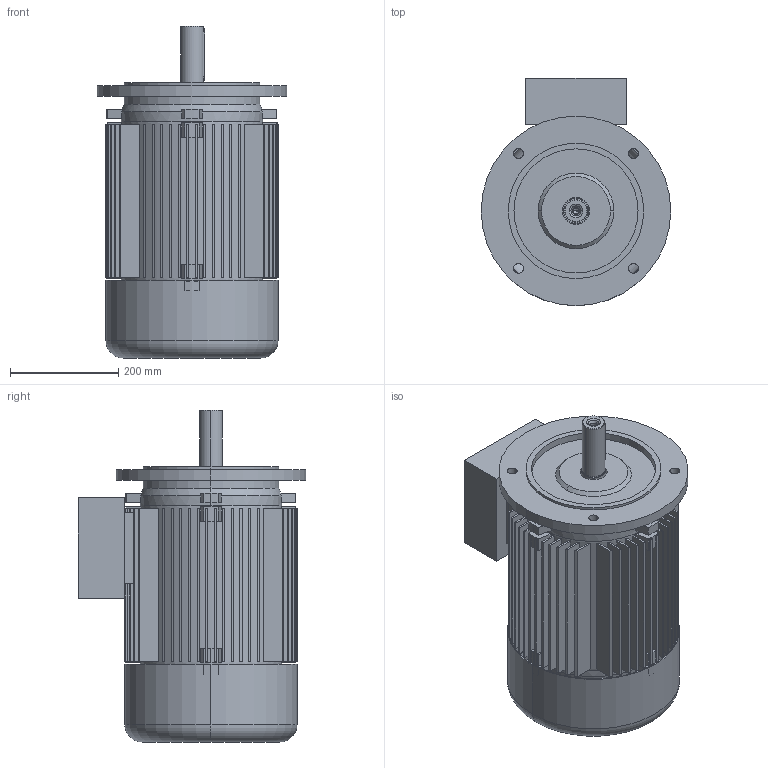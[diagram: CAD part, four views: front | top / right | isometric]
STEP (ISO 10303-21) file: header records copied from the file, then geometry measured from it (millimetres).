
FILE_DESCRIPTION (( 'STEP AP203' ), '1' );
FILE_NAME ('5AZ 160M B5 STANDK.STEP', '2017-11-10T11:07:18', ( '' ), ( '' ), 'SwSTEP 2.0', 'SolidWorks 2017', '' );
FILE_SCHEMA (( 'CONFIG_CONTROL_DESIGN' ));
Length unit declared in the file: millimetre
Products named in the file (1): 5AZ 160M B5 STANDK
Bounding box: 350 x 420 x 613 mm (x, y, z)
Volume: 12402313.5 mm3; surface area: 2482838.3 mm2
Topology: 7 solids, 7 shells, 494 faces, 1266 edges, 835 vertices
Faces by surface type: plane 327, cylinder 141, cone 22, torus 4
Entity records: 15281 total; most frequent: CARTESIAN_POINT 2730, DIRECTION 2722, ORIENTED_EDGE 2528, EDGE_CURVE 1264, AXIS2_PLACEMENT_3D 983, VERTEX_POINT 835, LINE 756, VECTOR 756
